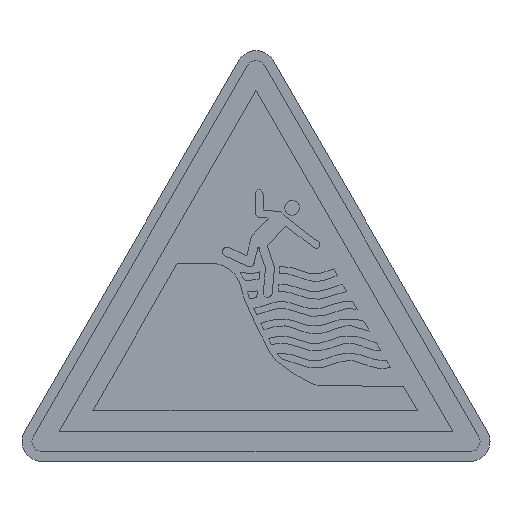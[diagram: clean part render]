
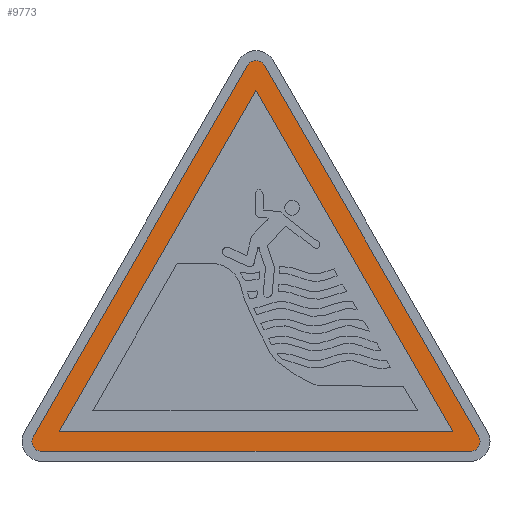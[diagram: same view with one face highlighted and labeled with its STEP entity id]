
A CAD part, top view. The second image highlights one B-rep face of the part: STEP entity #9773.
In plain terms, the highlighted planar face has unit normal (0, 0, 1).
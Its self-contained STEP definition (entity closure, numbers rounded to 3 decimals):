
#22 = CARTESIAN_POINT ( 'NONE',  ( -19.804, 3., 0.22 ) ) ;
#57 = CARTESIAN_POINT ( 'NONE',  ( 0.866, 39.801, 0.22 ) ) ;
#128 = AXIS2_PLACEMENT_3D ( 'NONE', #9373, #10412, #10210 ) ;
#175 = FACE_BOUND ( 'NONE', #1526, .T. ) ;
#186 = LINE ( 'NONE', #7931, #8333 ) ;
#226 = EDGE_CURVE ( 'NONE', #3052, #4272, #990, .T. ) ;
#227 = CARTESIAN_POINT ( 'NONE',  ( 0., 39.301, 0.22 ) ) ;
#459 = VERTEX_POINT ( 'NONE', #11429 ) ;
#525 = ORIENTED_EDGE ( 'NONE', *, *, #7112, .F. ) ;
#530 = EDGE_CURVE ( 'NONE', #11591, #7575, #12513, .T. ) ;
#635 = VECTOR ( 'NONE', #11970, 1000. ) ;
#814 = VECTOR ( 'NONE', #8589, 1000. ) ;
#842 = CARTESIAN_POINT ( 'NONE',  ( -21.536, 2., 0.22 ) ) ;
#990 = CIRCLE ( 'NONE', #5540, 1. ) ;
#1052 = EDGE_CURVE ( 'NONE', #4438, #5001, #9633, .T. ) ;
#1416 = VECTOR ( 'NONE', #4571, 1000. ) ;
#1526 = EDGE_LOOP ( 'NONE', ( #525, #7154, #7128 ) ) ;
#1776 = CARTESIAN_POINT ( 'NONE',  ( 19.804, 3., 0.22 ) ) ;
#2123 = AXIS2_PLACEMENT_3D ( 'NONE', #6258, #10239, #4337 ) ;
#2175 = DIRECTION ( 'NONE',  ( -0.5, -0.866, 0. ) ) ;
#2303 = DIRECTION ( 'NONE',  ( 0., 0., 1. ) ) ;
#2776 = CARTESIAN_POINT ( 'NONE',  ( 22.402, 2.5, 0.22 ) ) ;
#2969 = DIRECTION ( 'NONE',  ( 1., 0., 0. ) ) ;
#2984 = ORIENTED_EDGE ( 'NONE', *, *, #11003, .T. ) ;
#3052 = VERTEX_POINT ( 'NONE', #4660 ) ;
#3146 = VECTOR ( 'NONE', #11773, 1000. ) ;
#3236 = DIRECTION ( 'NONE',  ( 0., 0., 1. ) ) ;
#3644 = CARTESIAN_POINT ( 'NONE',  ( 22.402, 2.5, 0.22 ) ) ;
#3883 = VERTEX_POINT ( 'NONE', #8208 ) ;
#4083 = CARTESIAN_POINT ( 'NONE',  ( -22.402, 2.5, 0.22 ) ) ;
#4117 = PLANE ( 'NONE',  #128 ) ;
#4204 = DIRECTION ( 'NONE',  ( 1., 0., 0. ) ) ;
#4262 = AXIS2_PLACEMENT_3D ( 'NONE', #227, #3236, #12065 ) ;
#4272 = VERTEX_POINT ( 'NONE', #7013 ) ;
#4337 = DIRECTION ( 'NONE',  ( 1., 0., 0. ) ) ;
#4438 = VERTEX_POINT ( 'NONE', #6141 ) ;
#4571 = DIRECTION ( 'NONE',  ( -0.5, 0.866, 0. ) ) ;
#4618 = EDGE_CURVE ( 'NONE', #9826, #11591, #10425, .T. ) ;
#4660 = CARTESIAN_POINT ( 'NONE',  ( -22.536, 2., 0.22 ) ) ;
#4679 = ORIENTED_EDGE ( 'NONE', *, *, #4618, .T. ) ;
#4780 = EDGE_CURVE ( 'NONE', #5001, #3883, #186, .T. ) ;
#4887 = CARTESIAN_POINT ( 'NONE',  ( -21.536, 1., 0.22 ) ) ;
#5001 = VERTEX_POINT ( 'NONE', #8645 ) ;
#5155 = CARTESIAN_POINT ( 'NONE',  ( -0.866, 39.801, 0.22 ) ) ;
#5540 = AXIS2_PLACEMENT_3D ( 'NONE', #12033, #2303, #4204 ) ;
#5575 = DIRECTION ( 'NONE',  ( 1., 0., 0. ) ) ;
#5794 = LINE ( 'NONE', #4887, #3146 ) ;
#6141 = CARTESIAN_POINT ( 'NONE',  ( 19.804, 3., 0.22 ) ) ;
#6258 = CARTESIAN_POINT ( 'NONE',  ( 21.536, 2., 0.22 ) ) ;
#6760 = ORIENTED_EDGE ( 'NONE', *, *, #10110, .T. ) ;
#6994 = LINE ( 'NONE', #22, #9558 ) ;
#7013 = CARTESIAN_POINT ( 'NONE',  ( -21.536, 1., 0.22 ) ) ;
#7112 = EDGE_CURVE ( 'NONE', #3883, #4438, #6994, .T. ) ;
#7128 = ORIENTED_EDGE ( 'NONE', *, *, #1052, .F. ) ;
#7154 = ORIENTED_EDGE ( 'NONE', *, *, #4780, .F. ) ;
#7575 = VERTEX_POINT ( 'NONE', #57 ) ;
#7597 = EDGE_CURVE ( 'NONE', #4272, #9826, #5794, .T. ) ;
#7931 = CARTESIAN_POINT ( 'NONE',  ( 0., 37.301, 0.22 ) ) ;
#8120 = CARTESIAN_POINT ( 'NONE',  ( 21.536, 1., 0.22 ) ) ;
#8208 = CARTESIAN_POINT ( 'NONE',  ( -19.804, 3., 0.22 ) ) ;
#8333 = VECTOR ( 'NONE', #2175, 1000. ) ;
#8589 = DIRECTION ( 'NONE',  ( -0.5, 0.866, 0. ) ) ;
#8645 = CARTESIAN_POINT ( 'NONE',  ( 0., 37.301, 0.22 ) ) ;
#9047 = FACE_OUTER_BOUND ( 'NONE', #11617, .T. ) ;
#9373 = CARTESIAN_POINT ( 'NONE',  ( 0., 39.301, 0.22 ) ) ;
#9437 = CIRCLE ( 'NONE', #4262, 1. ) ;
#9558 = VECTOR ( 'NONE', #2969, 1000. ) ;
#9633 = LINE ( 'NONE', #1776, #814 ) ;
#9773 = ADVANCED_FACE ( 'NONE', ( #9047, #175 ), #4117, .T. ) ;
#9826 = VERTEX_POINT ( 'NONE', #8120 ) ;
#10110 = EDGE_CURVE ( 'NONE', #7575, #459, #9437, .T. ) ;
#10210 = DIRECTION ( 'NONE',  ( 1., 0., 0. ) ) ;
#10239 = DIRECTION ( 'NONE',  ( 0., 0., 1. ) ) ;
#10412 = DIRECTION ( 'NONE',  ( 0., 0., 1. ) ) ;
#10425 = CIRCLE ( 'NONE', #2123, 1. ) ;
#10526 = DIRECTION ( 'NONE',  ( 0., 0., 1. ) ) ;
#10663 = ORIENTED_EDGE ( 'NONE', *, *, #12713, .T. ) ;
#10713 = AXIS2_PLACEMENT_3D ( 'NONE', #842, #10526, #5575 ) ;
#10857 = ORIENTED_EDGE ( 'NONE', *, *, #7597, .T. ) ;
#11003 = EDGE_CURVE ( 'NONE', #11738, #3052, #11949, .T. ) ;
#11429 = CARTESIAN_POINT ( 'NONE',  ( -0.866, 39.801, 0.22 ) ) ;
#11591 = VERTEX_POINT ( 'NONE', #2776 ) ;
#11617 = EDGE_LOOP ( 'NONE', ( #6760, #10663, #2984, #12518, #10857, #4679, #12114 ) ) ;
#11738 = VERTEX_POINT ( 'NONE', #4083 ) ;
#11773 = DIRECTION ( 'NONE',  ( 1., 0., 0. ) ) ;
#11908 = LINE ( 'NONE', #5155, #635 ) ;
#11949 = CIRCLE ( 'NONE', #10713, 1. ) ;
#11970 = DIRECTION ( 'NONE',  ( -0.5, -0.866, 0. ) ) ;
#12033 = CARTESIAN_POINT ( 'NONE',  ( -21.536, 2., 0.22 ) ) ;
#12065 = DIRECTION ( 'NONE',  ( 1., 0., 0. ) ) ;
#12114 = ORIENTED_EDGE ( 'NONE', *, *, #530, .T. ) ;
#12513 = LINE ( 'NONE', #3644, #1416 ) ;
#12518 = ORIENTED_EDGE ( 'NONE', *, *, #226, .T. ) ;
#12713 = EDGE_CURVE ( 'NONE', #459, #11738, #11908, .T. ) ;
